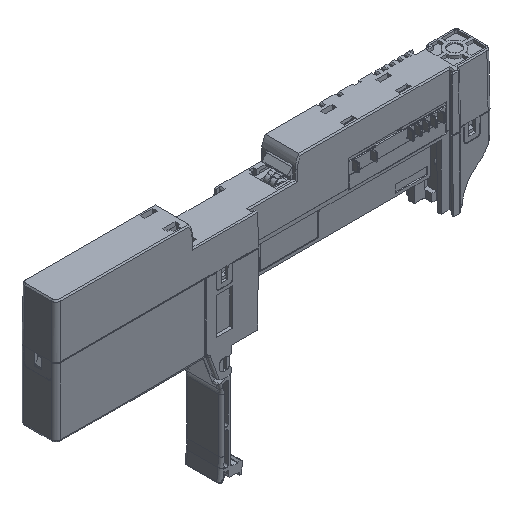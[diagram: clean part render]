
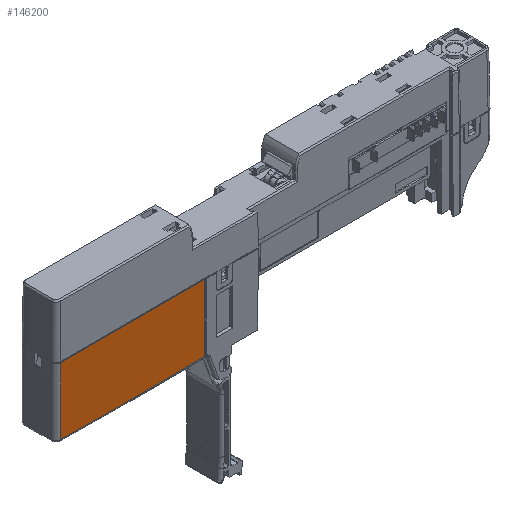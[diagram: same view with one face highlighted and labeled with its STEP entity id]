
A CAD part, isometric view. The second image highlights one B-rep face of the part: STEP entity #146200.
In plain terms, the highlighted planar face has unit normal (0, -1, 0).
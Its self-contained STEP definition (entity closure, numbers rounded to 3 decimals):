
#109239=CARTESIAN_POINT('',(-37.5,-6.,1216.5));
#109240=DIRECTION('',(0.,1.,0.));
#109241=DIRECTION('',(0.019,0.,-1.));
#109242=AXIS2_PLACEMENT_3D('',#109239,#109240,#109241);
#109248=DIRECTION('',(1.,0.,0.));
#109249=VECTOR('',#109248,47.25);
#109250=CARTESIAN_POINT('',(-61.5,-6.,-10.75));
#109251=LINE('',#109250,#109249);
#109260=DIRECTION('',(0.,0.,-1.));
#109261=VECTOR('',#109260,21.781);
#109262=CARTESIAN_POINT('',(-14.25,-6.,-10.75));
#109263=LINE('',#109262,#109261);
#109335=DIRECTION('',(0.,0.,-1.));
#109336=VECTOR('',#109335,21.769);
#109337=CARTESIAN_POINT('',(-61.5,-6.,-10.75));
#109338=LINE('',#109337,#109336);
#135046=CARTESIAN_POINT('',(-14.25,-6.,-32.534));
#135047=CARTESIAN_POINT('',(-61.5,-6.,-32.519));
#135048=VERTEX_POINT('',#135046);
#135049=VERTEX_POINT('',#135047);
#135050=CARTESIAN_POINT('',(-61.5,-6.,-10.75));
#135051=CARTESIAN_POINT('',(-14.25,-6.,-10.75));
#135052=VERTEX_POINT('',#135050);
#135053=VERTEX_POINT('',#135051);
#146186=CARTESIAN_POINT('',(-37.875,-6.,-21.753));
#146187=DIRECTION('',(0.,1.,0.));
#146188=DIRECTION('',(1.,0.,0.));
#146189=AXIS2_PLACEMENT_3D('',#146186,#146187,#146188);
#146190=PLANE('',#146189);
#146192=ORIENTED_EDGE('',*,*,#146191,.T.);
#146194=ORIENTED_EDGE('',*,*,#146193,.T.);
#146195=ORIENTED_EDGE('',*,*,#146176,.T.);
#146197=ORIENTED_EDGE('',*,*,#146196,.F.);
#146198=EDGE_LOOP('',(#146192,#146194,#146195,#146197));
#146199=FACE_OUTER_BOUND('',#146198,.F.);
#146200=ADVANCED_FACE('',(#146199),#146190,.F.);
#109243=CIRCLE('',#109242,1249.25);
#146176=EDGE_CURVE('',#135048,#135049,#109243,.T.);
#146191=EDGE_CURVE('',#135052,#135053,#109251,.T.);
#146193=EDGE_CURVE('',#135053,#135048,#109263,.T.);
#146196=EDGE_CURVE('',#135052,#135049,#109338,.T.);
